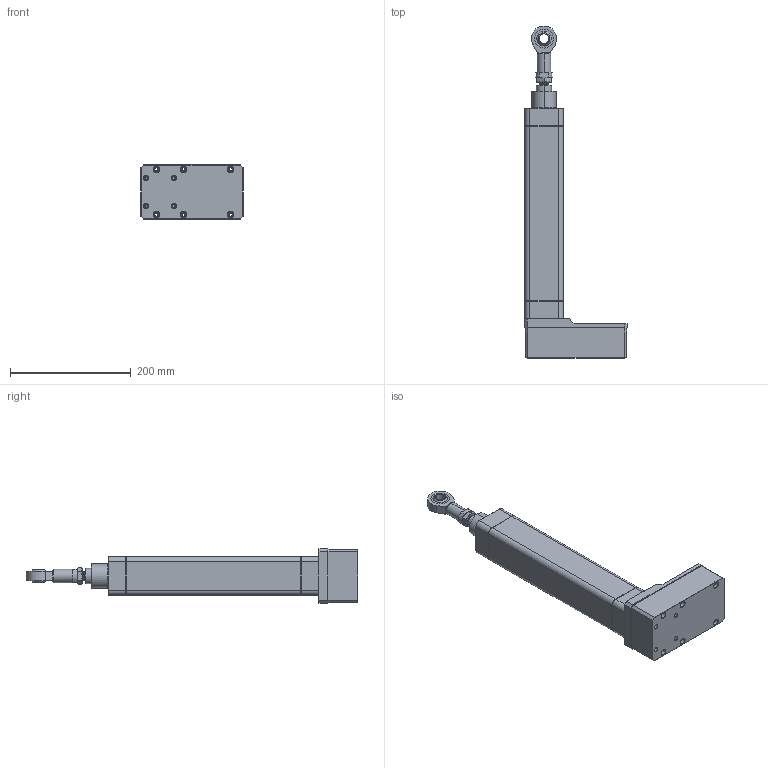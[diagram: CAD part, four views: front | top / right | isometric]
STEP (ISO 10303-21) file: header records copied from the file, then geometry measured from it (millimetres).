
FILE_DESCRIPTION (( 'STEP AP203' ), '1' );
FILE_NAME ('CS050-S050-200-R.STEP', '2011-01-26T22:15:13', ( 'Admin' ), ( '' ), 'SwSTEP 2.0', 'SolidWorks 2007', '' );
FILE_SCHEMA (( 'CONFIG_CONTROL_DESIGN' ));
Length unit declared in the file: millimetre
Products named in the file (12): CS050BsBoccolaGuida; CS050BsSteloCromato; CS050BsNaselloINOX; CS050-S050-200-R; CS050Bs200CorpoGuidato; CS050BsTestataAnteriore; CS050BsTestataPosteriore; BV08ViteDoppia; M16DadoBasso; CS050RvPiastraMotore; CS050RvCoperchio; SNS-050
Assembly tree (18 placements, depth 2):
  CS050-S050-200-R
    BV08ViteDoppia  x8
    CS050BsTestataAnteriore
    CS050BsNaselloINOX
    CS050Bs200CorpoGuidato
    CS050BsTestataPosteriore
    CS050BsBoccolaGuida
    CS050RvPiastraMotore
    CS050BsSteloCromato
    CS050RvCoperchio
    M16DadoBasso
    SNS-050
Bounding box: 170 x 550 x 90 mm (x, y, z)
Volume: 1356553.3 mm3; surface area: 360838.7 mm2
Topology: 18 solids, 18 shells, 1020 faces, 2206 edges, 1254 vertices
Faces by surface type: plane 346, cone 343, cylinder 249, torus 76, bspline 4, sphere 2
Entity records: 21529 total; most frequent: DIRECTION 3817, CARTESIAN_POINT 3602, ORIENTED_EDGE 3152, EDGE_CURVE 1576, AXIS2_PLACEMENT_3D 1526, VERTEX_POINT 911, EDGE_LOOP 841, CIRCLE 783
